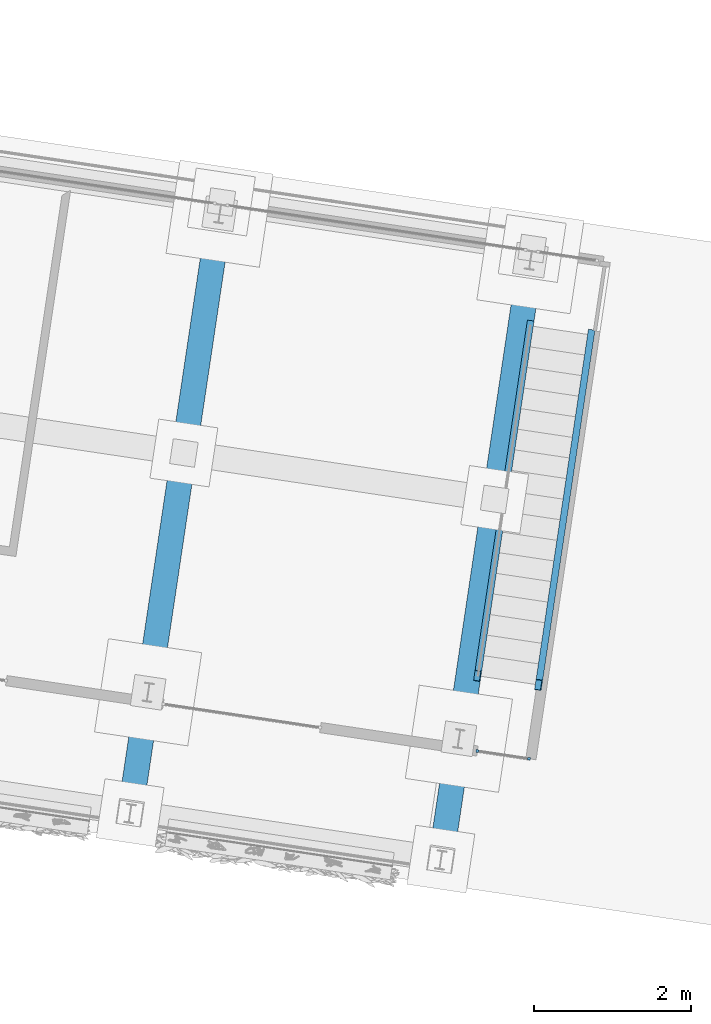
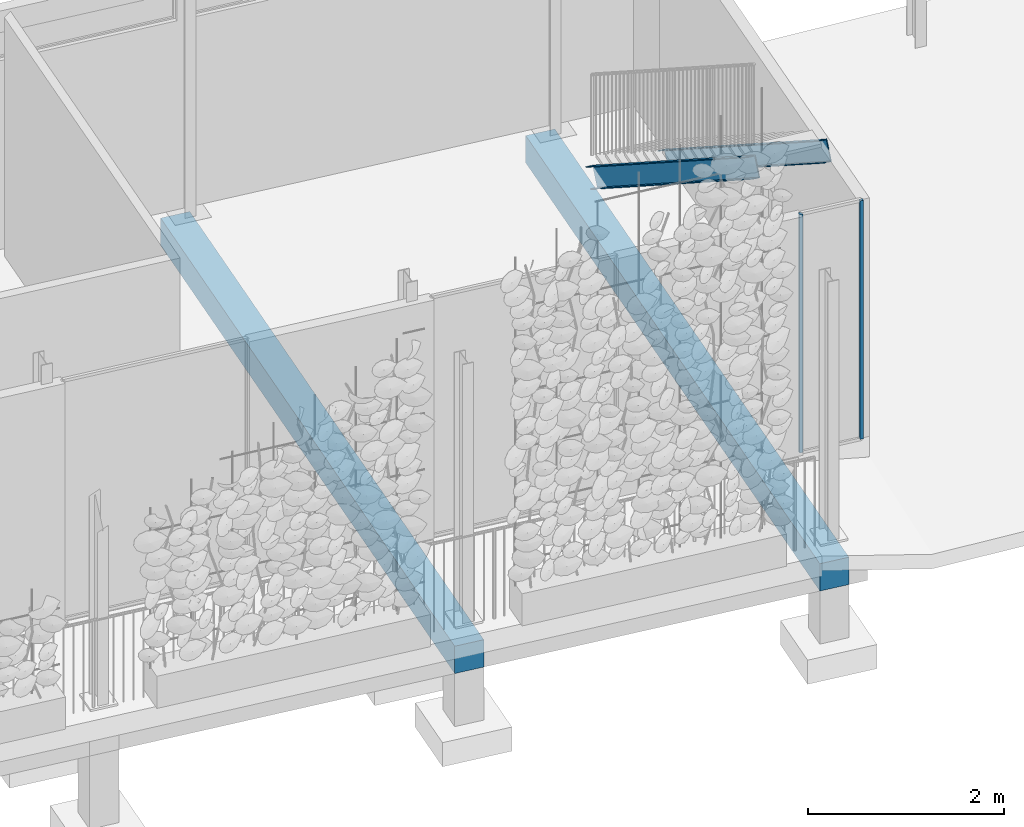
# One storey, part 95 of 142: 4 members, 2 beams, 2 elements without a shape of their own.
"""IFC4 building model written with IfcOpenShell, lengths in metres."""

import ifcopenshell
import ifcopenshell.guid

model = None  # the IFC model being written
_history = None  # IfcOwnerHistory: only IFC2X3 demands one
_inside = {}  # id of a spatial element -> (the spatial element, [elements in it])
_under = {}  # id of a project, library or spatial element -> (it, [spatial elements below it])
_declared = {}  # id of a project -> (the project, [libraries it declares])
_typed = {}  # id of a type object -> (the type object, [elements of that type])
_made_of = {}  # id of a material, layer set ... -> (it, [elements and type objects made of it])


def new_model(schema):
    """Start an empty IFC model of exactly this schema.

    Asked for "IFC4X3", IfcOpenShell would pick the latest addendum, in which some entities
    have other attributes; the version numbers below select the first issue.
    IFC2X3 requires an IfcOwnerHistory on every rooted entity: one is made here for all.
    """
    global model, _history
    if schema == "IFC4X3":
        model = ifcopenshell.file(schema_version=(4, 3, 0, 0))
    else:
        model = ifcopenshell.file(schema=schema)
    _inside.clear()
    _under.clear()
    _declared.clear()
    _typed.clear()
    _made_of.clear()
    _history = None
    if model.schema == "IFC2X3":
        org = make("IfcOrganization", Name="unknown")
        user = make(
            "IfcPersonAndOrganization",
            ThePerson=make("IfcPerson", FamilyName="unknown"),
            TheOrganization=org,
        )
        app = make(
            "IfcApplication",
            ApplicationDeveloper=org,
            Version="unknown",
            ApplicationFullName="unknown",
            ApplicationIdentifier="unknown",
        )
        _history = make(
            "IfcOwnerHistory",
            OwningUser=user,
            OwningApplication=app,
            ChangeAction="ADDED",
            CreationDate=0,
        )
    return model


def make(cls, **values):
    """One entity of the class cls with the attributes given. An attribute that is None is left unset."""
    return model.create_entity(
        cls, **{name: value for name, value in values.items() if value is not None}
    )


def rooted(cls, **values):
    """An entity with a GlobalId (a new one), such as an element, a storey or a relation."""
    return make(cls, GlobalId=ifcopenshell.guid.new(), OwnerHistory=_history, **values)


def si_unit(unit_type, name, prefix=None):
    """IfcSIUnit, for example si_unit("LENGTHUNIT", "METRE", prefix="MILLI")."""
    return make("IfcSIUnit", UnitType=unit_type, Prefix=prefix, Name=name)


def assignment(units):
    """IfcUnitAssignment: the units of a project."""
    return None if units is None else make("IfcUnitAssignment", Units=units)


def point(xyz):
    """IfcCartesianPoint."""
    return None if xyz is None else make("IfcCartesianPoint", Coordinates=xyz)


def direction(xyz):
    """IfcDirection."""
    return None if xyz is None else make("IfcDirection", DirectionRatios=xyz)


def frame(location, z_axis=None, x_axis=None):
    """IfcAxis2Placement3D, a coordinate frame: its origin and axes. An axis left out is left unset."""
    return make(
        "IfcAxis2Placement3D",
        Location=point(location),
        Axis=direction(z_axis),
        RefDirection=direction(x_axis),
    )


def origin_with_axes():
    """The frame at (0, 0, 0) with the z axis (0, 0, 1) and the x axis (1, 0, 0) written out."""
    return frame((0.0, 0.0, 0.0), z_axis=(0.0, 0.0, 1.0), x_axis=(1.0, 0.0, 0.0))


def place(relative_to, where):
    """IfcLocalPlacement: puts the frame where relative to a parent placement (None: the world)."""
    return make(
        "IfcLocalPlacement", PlacementRelTo=relative_to, RelativePlacement=where
    )


def context(
    kind, dimensions, precision=None, world=None, true_north=None, identifier=None
):
    """IfcGeometricRepresentationContext, for example the 3D "Model" context."""
    return make(
        "IfcGeometricRepresentationContext",
        ContextIdentifier=identifier,
        ContextType=kind,
        CoordinateSpaceDimension=dimensions,
        Precision=precision,
        WorldCoordinateSystem=world,
        TrueNorth=true_north,
    )


def subcontext(parent, identifier, kind, view, scale=None):
    """IfcGeometricRepresentationSubContext, for example "Body" below "Model"."""
    return make(
        "IfcGeometricRepresentationSubContext",
        ContextIdentifier=identifier,
        ContextType=kind,
        ParentContext=parent,
        TargetScale=scale,
        TargetView=view,
    )


def project(units=None, contexts=None):
    """IfcProject with its units and contexts."""
    return rooted(
        "IfcProject",
        Name="project",
        RepresentationContexts=contexts,
        UnitsInContext=assignment(units),
    )


def spatial(cls, under=None, at=None, **own):
    """A site, building, storey or space (cls), placed at a placement, below another one or the project."""
    s = rooted(cls, ObjectPlacement=at, **own)
    if under is not None:
        _under.setdefault(under.id(), (under, []))[1].append(s)
    return s


def polyline(points):
    """IfcPolyline through the points."""
    return make("IfcPolyline", Points=[point(p) for p in points])


def profile(cls, at=None, kind="AREA", **sizes):
    """A parametric profile (cls). Its sizes go by their IFC names, for example OverallWidth=200.0."""
    return make(cls, ProfileType=kind, Position=at, **sizes)


def rectangle(**sizes):
    """IfcRectangleProfileDef."""
    return profile("IfcRectangleProfileDef", **sizes)


def outline(outer, holes=None, kind="AREA"):
    """IfcArbitraryClosedProfileDef: a profile drawn as a closed curve; with holes, ...WithVoids."""
    if holes is None:
        return make("IfcArbitraryClosedProfileDef", ProfileType=kind, OuterCurve=outer)
    return make(
        "IfcArbitraryProfileDefWithVoids",
        ProfileType=kind,
        OuterCurve=outer,
        InnerCurves=holes,
    )


def extrude(swept, where, along, depth):
    """IfcExtrudedAreaSolid: the profile swept, set in the frame where, extruded along a direction by depth."""
    return make(
        "IfcExtrudedAreaSolid",
        SweptArea=swept,
        Position=where,
        ExtrudedDirection=direction(along),
        Depth=depth,
    )


def shape(context_of_items, identifier, shape_type, items):
    """IfcShapeRepresentation: the items that make up one representation, for example the "Body"."""
    return make(
        "IfcShapeRepresentation",
        ContextOfItems=context_of_items,
        RepresentationIdentifier=identifier,
        RepresentationType=shape_type,
        Items=items,
    )


def material(Name=None, Category=None):
    """IfcMaterial."""
    return make("IfcMaterial", Name=Name, Category=Category)


def material_profile(
    of_material, cross_section, Name=None, Category=None, Priority=None
):
    """IfcMaterialProfile: a cross section and its material."""
    return make(
        "IfcMaterialProfile",
        Name=Name,
        Material=of_material,
        Profile=cross_section,
        Priority=Priority,
        Category=Category,
    )


def profile_set(profiles, Name=None, composite=None):
    """IfcMaterialProfileSet."""
    return make(
        "IfcMaterialProfileSet",
        Name=Name,
        MaterialProfiles=profiles,
        CompositeProfile=composite,
    )


def profile_usage(for_profile_set, cardinal=None, extent=None):
    """IfcMaterialProfileSetUsage: how a profile set lies along its element."""
    return make(
        "IfcMaterialProfileSetUsage",
        ForProfileSet=for_profile_set,
        CardinalPoint=cardinal,
        ReferenceExtent=extent,
    )


def made_of(thing, what):
    """Note that an element or type object is made of a material, layer set ...; save() writes the relation."""
    if what is not None:
        _made_of.setdefault(what.id(), (what, []))[1].append(thing)
    return thing


def type_object(cls, material=None, **own):
    """A type object (cls), such as IfcWallType, which elements share."""
    return made_of(rooted(cls, **own), material)


def element(
    cls,
    number,
    at=None,
    inside=None,
    cuts=None,
    type_object=None,
    material=None,
    context=None,
    identifier="Body",
    shape_type=None,
    held_by="IfcProductDefinitionShape",
    body=None,
    shapes=None,
    **own,
):
    """One element of the class cls, such as IfcWall. Its Tag is "e" and its number.

    at: its placement. inside: the storey or other place that contains it. cuts: it is an
    opening in that element (IfcRelVoidsElement). A single representation is given by context,
    identifier, shape_type and body (its items); several are given by shapes. held_by: the class
    of the entity that holds the representations. save() writes the other relations.
    """
    e = rooted(cls, Tag="e%d" % number, ObjectPlacement=at, **own)
    if body is not None:
        shapes = [shape(context, identifier, shape_type, body)]
    if shapes is not None:
        e.Representation = make(held_by, Representations=shapes)
    if inside is not None:
        _inside.setdefault(inside.id(), (inside, []))[1].append(e)
    if cuts is not None:
        rooted(
            "IfcRelVoidsElement", RelatingBuildingElement=cuts, RelatedOpeningElement=e
        )
    if type_object is not None:
        _typed.setdefault(type_object.id(), (type_object, []))[1].append(e)
    return made_of(e, material)


def aggregate(whole, parts):
    """IfcRelAggregates: a whole, such as a stair, and the parts it consists of."""
    return rooted("IfcRelAggregates", RelatingObject=whole, RelatedObjects=parts)


def save(model, path):
    """Write the relations noted so far, then the file.

    IfcRelAggregates (storeys below a building ...), IfcRelContainedInSpatialStructure (elements
    in a storey), IfcRelDefinesByType, IfcRelAssociatesMaterial and IfcRelDeclares: one each for
    every whole, place, type object, material and project.
    """
    for whole, parts in _under.values():
        aggregate(whole, parts)
    for where, things in _inside.values():
        rooted(
            "IfcRelContainedInSpatialStructure",
            RelatedElements=things,
            RelatingStructure=where,
        )
    for kind, things in _typed.values():
        rooted("IfcRelDefinesByType", RelatedObjects=things, RelatingType=kind)
    for what, things in _made_of.values():
        rooted("IfcRelAssociatesMaterial", RelatedObjects=things, RelatingMaterial=what)
    for by, libraries in _declared.values():
        rooted("IfcRelDeclares", RelatingContext=by, RelatedDefinitions=libraries)
    model.write(path)


model = new_model("IFC4")

# Units and contexts
model_context = context("Model", 3, precision=1e-05, world=origin_with_axes(), true_north=direction((0.0, 1.0)))
body_context = subcontext(model_context, "Body", "Model", "MODEL_VIEW")
ifc_project = project(units=[si_unit("AREAUNIT", "SQUARE_METRE"), si_unit("VOLUMEUNIT", "CUBIC_METRE"), si_unit("LENGTHUNIT", "METRE")], contexts=[model_context])

# Site, building, storey
site_placement = place(None, origin_with_axes())
site = spatial("IfcSite", under=ifc_project, at=site_placement, Name="Lares · Rua das Mercês · artigo 4771")
building_placement = place(site_placement, frame((15.0, 9.7, 14.65), z_axis=(0.0, 0.0, 1.0), x_axis=(0.989015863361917, -0.147809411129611, 0.0)))
building = spatial("IfcBuilding", under=site, at=building_placement, Name="Casa Sobreposta")
storey_placement = place(building_placement, origin_with_axes())
storey = spatial("IfcBuildingStorey", under=building, at=storey_placement, Name="00 · Habitação e estacionamento", Elevation=14.65)

# Members
ifc_material_1 = material(Name="Aço pintado / Stahl lackiert", Category="steel")
ifc_material_profile_1 = material_profile(ifc_material_1, rectangle(XDim=0.035, YDim=0.035))
ifc_profile_set_1 = profile_set([ifc_material_profile_1], Name="R0.035")
ifc_profile_usage_1 = profile_usage(ifc_profile_set_1)
member_type_1 = type_object("IfcMemberType", Name="R0.035 / steel", PredefinedType="NOTDEFINED", material=ifc_profile_set_1)
member_1_placement = place(storey_placement, frame((24.256, 0.0, 0.0), z_axis=(0.0, 0.0, 1.0), x_axis=(1.0, 0.0, 0.0)))
element("IfcMember", 1, at=member_1_placement, inside=storey, type_object=member_type_1, material=ifc_profile_usage_1, Name="Folha de correr sul 12 · montante", context=body_context, shape_type="SweptSolid", body=[
    extrude(rectangle(XDim=0.035, YDim=0.035), origin_with_axes(), (0.0, 0.0, 1.0), 2.968),
])
ifc_profile_usage_2 = profile_usage(ifc_profile_set_1)
member_2_placement = place(storey_placement, frame((24.92, 0.0, 0.0), z_axis=(0.0, 0.0, 1.0), x_axis=(1.0, 0.0, 0.0)))
element("IfcMember", 2, at=member_2_placement, inside=storey, type_object=member_type_1, material=ifc_profile_usage_2, Name="Folha de correr sul 12 · montante", context=body_context, shape_type="SweptSolid", body=[
    extrude(rectangle(XDim=0.035, YDim=0.035), origin_with_axes(), (0.0, 0.0, 1.0), 2.968),
])

# Stair, members
stair_placement = place(storey_placement, origin_with_axes())
stair = element("IfcStair", 3, at=stair_placement, inside=storey, Name="Escada garagem", PredefinedType="STRAIGHT_RUN_STAIR")
ifc_material_profile_2 = material_profile(ifc_material_1, outline(polyline([(-0.0425, -0.12), (0.0425, -0.12), (0.0425, -0.1102), (-0.0325, -0.1102), (-0.0325, 0.1102), (0.0425, 0.1102), (0.0425, 0.12), (-0.0425, 0.12), (-0.0425, -0.12)])))
ifc_profile_set_2 = profile_set([ifc_material_profile_2], Name="C240")
ifc_profile_usage_3 = profile_usage(ifc_profile_set_2)
member_type_2 = type_object("IfcMemberType", Name="C240 / steel", PredefinedType="NOTDEFINED", material=ifc_profile_set_2)
member_3_placement = place(stair_placement, frame((24.1175, 5.4525, -0.1), z_axis=(0.0, -0.827216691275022, 0.561883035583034), x_axis=(-1.0, 0.0, 0.0)))
member_3 = element("IfcMember", 4, at=member_3_placement, type_object=member_type_2, material=ifc_profile_usage_3, Name="Longarina metálica garagem", context=body_context, shape_type="SweptSolid", body=[
    extrude(outline(polyline([(-0.0425, -0.12), (0.0425, -0.12), (0.0425, -0.1102), (-0.0325, -0.1102), (-0.0325, 0.1102), (0.0425, 0.1102), (0.0425, 0.12), (-0.0425, 0.12), (-0.0425, -0.12)])), origin_with_axes(), (0.0, 0.0, 1.0), 5.44597328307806),
])
ifc_profile_usage_4 = profile_usage(ifc_profile_set_2)
member_4_placement = place(stair_placement, frame((24.9025, 5.4525, -0.1), z_axis=(0.0, -0.827216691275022, 0.561883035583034), x_axis=(-1.0, 0.0, 0.0)))
member_4 = element("IfcMember", 5, at=member_4_placement, type_object=member_type_2, material=ifc_profile_usage_4, Name="Longarina metálica garagem", context=body_context, shape_type="SweptSolid", body=[
    extrude(outline(polyline([(-0.0425, -0.12), (0.0425, -0.12), (0.0425, -0.1102), (-0.0325, -0.1102), (-0.0325, 0.1102), (0.0425, 0.1102), (0.0425, 0.12), (-0.0425, 0.12), (-0.0425, -0.12)])), origin_with_axes(), (0.0, 0.0, 1.0), 5.44597328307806),
])
aggregate(stair, [member_3, member_4])

# Assembly, beams
assembly_placement = place(storey_placement, origin_with_axes())
assembly = element("IfcElementAssembly", 6, at=assembly_placement, inside=storey, Name="Pódio · terraço, casa térrea e cisterna", ObjectType="CISTERN_PODIUM", PredefinedType="USERDEFINED")
ifc_material_2 = material(Name="Betão armado / Stahlbeton", Category="concrete")
beam_1_placement = place(assembly_placement, frame((0.0, 0.0, -0.59), z_axis=(0.0, 0.0, 1.0), x_axis=(1.0, 0.0, 0.0)))
beam_1 = element("IfcBeam", 7, at=beam_1_placement, material=ifc_material_2, Name="Pódio suspenso · viga transversal", context=body_context, shape_type="SweptSolid", body=[
    extrude(outline(polyline([(20.16, -1.59), (20.16, 6.59), (19.84, 6.59), (19.84, -1.59), (20.16, -1.59)])), origin_with_axes(), (0.0, 0.0, 1.0), 0.34),
])
beam_2_placement = place(assembly_placement, frame((0.0, 0.0, -0.59), z_axis=(0.0, 0.0, 1.0), x_axis=(1.0, 0.0, 0.0)))
beam_2 = element("IfcBeam", 8, at=beam_2_placement, material=ifc_material_2, Name="Pódio suspenso · viga transversal", context=body_context, shape_type="SweptSolid", body=[
    extrude(outline(polyline([(24.16, -1.59), (24.16, 6.59), (23.84, 6.59), (23.84, -1.59), (24.16, -1.59)])), origin_with_axes(), (0.0, 0.0, 1.0), 0.34),
])
aggregate(assembly, [beam_1, beam_2])

save(model, "model.ifc")
